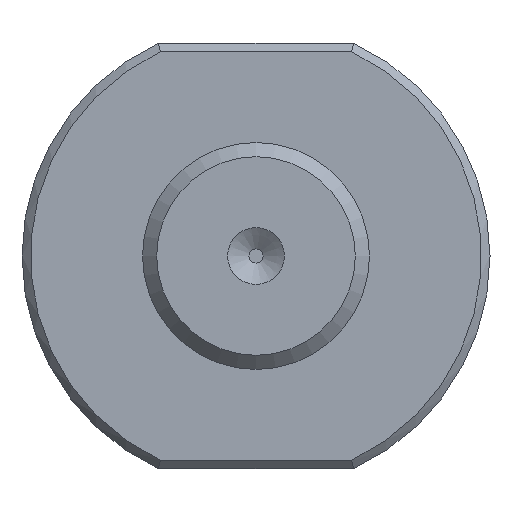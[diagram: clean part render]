
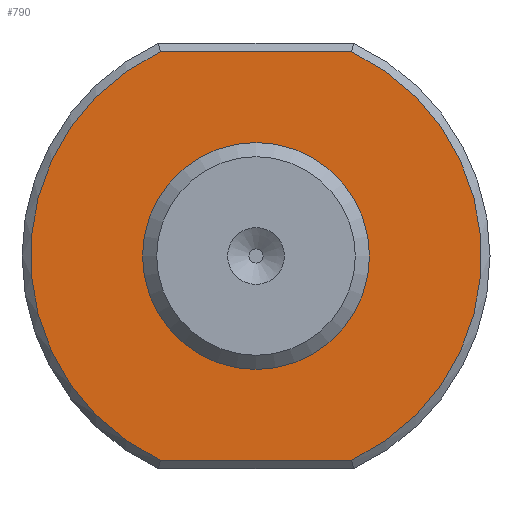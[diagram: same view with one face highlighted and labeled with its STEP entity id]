
A CAD part, front view. The second image highlights one B-rep face of the part: STEP entity #790.
In plain terms, the highlighted planar face has unit normal (0, -1, 0).
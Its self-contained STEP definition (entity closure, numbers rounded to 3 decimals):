
#40=LINE('',#1253,#89);
#41=LINE('',#1264,#90);
#89=VECTOR('',#982,10.);
#90=VECTOR('',#991,10.);
#156=FACE_BOUND('',#227,.T.);
#172=FACE_OUTER_BOUND('',#226,.T.);
#226=EDGE_LOOP('',(#548,#549,#550,#551));
#227=EDGE_LOOP('',(#552));
#281=CIRCLE('',#862,7.95);
#283=CIRCLE('',#866,7.95);
#285=CIRCLE('',#872,4.);
#334=VERTEX_POINT('',#1234);
#335=VERTEX_POINT('',#1239);
#337=VERTEX_POINT('',#1248);
#339=VERTEX_POINT('',#1257);
#343=VERTEX_POINT('',#1277);
#408=EDGE_CURVE('',#334,#335,#281,.T.);
#412=EDGE_CURVE('',#337,#334,#40,.T.);
#415=EDGE_CURVE('',#339,#337,#283,.T.);
#416=EDGE_CURVE('',#335,#339,#41,.T.);
#423=EDGE_CURVE('',#343,#343,#285,.T.);
#548=ORIENTED_EDGE('',*,*,#408,.F.);
#549=ORIENTED_EDGE('',*,*,#412,.F.);
#550=ORIENTED_EDGE('',*,*,#415,.F.);
#551=ORIENTED_EDGE('',*,*,#416,.F.);
#552=ORIENTED_EDGE('',*,*,#423,.T.);
#759=PLANE('',#871);
#790=ADVANCED_FACE('',(#172,#156),#759,.T.);
#862=AXIS2_PLACEMENT_3D('',#1240,#977,#978);
#866=AXIS2_PLACEMENT_3D('',#1262,#987,#988);
#871=AXIS2_PLACEMENT_3D('',#1276,#1003,#1004);
#872=AXIS2_PLACEMENT_3D('',#1278,#1005,#1006);
#977=DIRECTION('center_axis',(0.,1.,0.));
#978=DIRECTION('ref_axis',(-1.,0.,0.));
#982=DIRECTION('',(-1.,0.,0.));
#987=DIRECTION('center_axis',(0.,1.,0.));
#988=DIRECTION('ref_axis',(1.,0.,0.));
#991=DIRECTION('',(1.,0.,0.));
#1003=DIRECTION('center_axis',(0.,-1.,0.));
#1004=DIRECTION('ref_axis',(0.,0.,-1.));
#1005=DIRECTION('center_axis',(0.,1.,0.));
#1006=DIRECTION('ref_axis',(1.,0.,0.));
#1234=CARTESIAN_POINT('',(-3.371,-5.35,-7.2));
#1239=CARTESIAN_POINT('',(-3.371,-5.35,7.2));
#1240=CARTESIAN_POINT('Origin',(0.,-5.35,0.));
#1248=CARTESIAN_POINT('',(3.371,-5.35,-7.2));
#1253=CARTESIAN_POINT('',(-4.125,-5.35,-7.2));
#1257=CARTESIAN_POINT('',(3.371,-5.35,7.2));
#1262=CARTESIAN_POINT('Origin',(0.,-5.35,0.));
#1264=CARTESIAN_POINT('',(-4.125,-5.35,7.2));
#1276=CARTESIAN_POINT('Origin',(-8.25,-5.35,0.));
#1277=CARTESIAN_POINT('',(4.,-5.35,0.));
#1278=CARTESIAN_POINT('Origin',(0.,-5.35,0.));
